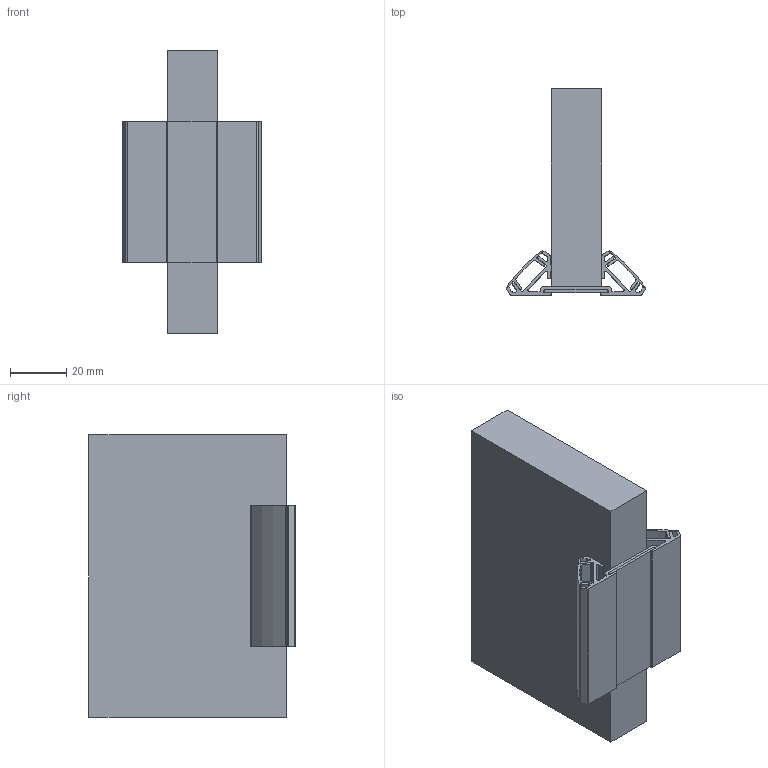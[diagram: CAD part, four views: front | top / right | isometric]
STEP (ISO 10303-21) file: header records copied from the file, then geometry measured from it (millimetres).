
FILE_DESCRIPTION(/* description */ ('Cover for LED Rails'),/* implementation_level */ '2;1');
FILE_NAME(/* name */ 'D:\$Workingspace\Designs\Profile\137 - Profil LED nakładany mały\MOOV pliki\pliki 3ds\PA-GLAXNBDW3M-AL_KPL.stp',/* time_stamp */ '2018-01-16T09:31:05+01:00',/* author */ ('tomaszw'),/* organization */ (''),/* preprocessor_version */ 'ST-DEVELOPER v16.1',/* originating_system */ 'Autodesk Inventor 2016',/* authorisation */ '');
FILE_SCHEMA (('CONFIG_CONTROL_DESIGN'));
Length unit declared in the file: millimetre
Products named in the file (5): Cover for LED Rails-07; 131- Profil LED do szafy dwustronny pod obrzeże; płyta mała; obrzeże; złożenie podwójnego z dyfuzor
em pod obrzeże
Assembly tree (5 placements, depth 2):
  złożenie podwójnego z dyfuzor
em pod obrzeże
    Cover for LED Rails-07  x2
    131- Profil LED do szafy dwustronny pod obrzeże
    płyta mała
    obrzeże
Bounding box: 49.4 x 73 x 100 mm (x, y, z)
Volume: 135718.6 mm3; surface area: 39489.7 mm2
Topology: 5 solids, 5 shells, 198 faces, 564 edges, 376 vertices
Faces by surface type: plane 114, cylinder 84
Entity records: 5867 total; most frequent: CARTESIAN_POINT 1014, DIRECTION 1010, ORIENTED_EDGE 996, EDGE_CURVE 498, LINE 354, VECTOR 354, VERTEX_POINT 332, AXIS2_PLACEMENT_3D 328
